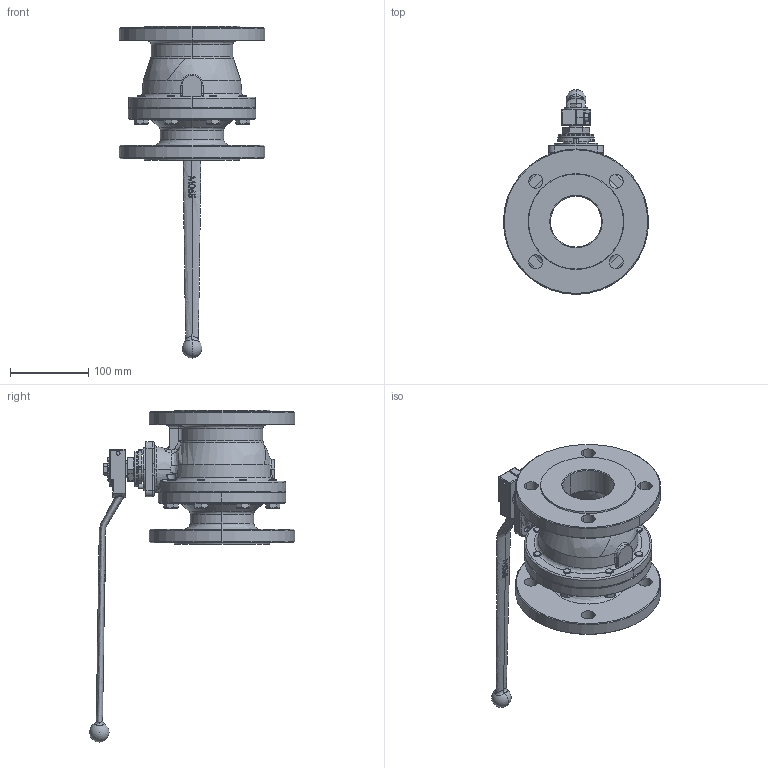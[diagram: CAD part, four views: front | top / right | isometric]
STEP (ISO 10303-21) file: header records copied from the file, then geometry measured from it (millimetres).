
FILE_DESCRIPTION (( 'STEP AP214' ), '1' );
FILE_NAME ('FIG 516 - DN65 con maneta.STEP', '2016-10-03T17:37:40', ( '' ), ( '' ), 'SwSTEP 2.0', 'SolidWorks 2016', '' );
FILE_SCHEMA (( 'AUTOMOTIVE_DESIGN' ));
Length unit declared in the file: millimetre
Products named in the file (17): M065CHST; DIN 6325 - Ø6x18; ISO 4017 - M10 x 30-N_ISO 4017 - M10 x 30-N; 5165-10-1; 0516065C; DIN 2093 - B45; DIN 912 M6 x 20 --- 20C_DIN 912 M6 x 20 --- 20C; ISO 4017 - M8 x 16-N_ISO 4017 - M8 x 16-N; 0516065L; 5165_17; FIG 516 - DN65 con maneta; 00650930; P65G (32x22x5)_Comprimida; EPI65Q; JT65FV (32x22x2); 5165-07; 5265_46
Assembly tree (26 placements, depth 2):
  FIG 516 - DN65 con maneta
    0516065C
    0516065L
    EPI65Q
    P65G (32x22x5)_Comprimida  x2
    5165-10-1
    JT65FV (32x22x2)
    DIN 2093 - B45  x2
    M065CHST
    5165_17
    ISO 4017 - M8 x 16-N_ISO 4017 - M8 x 16-N
    ISO 4017 - M10 x 30-N_ISO 4017 - M10 x 30-N  x8
    DIN 912 M6 x 20 --- 20C_DIN 912 M6 x 20 --- 20C
    5265_46
    5165-07
    00650930
    DIN 6325 - Ø6x18  x2
Bounding box: 185 x 261.4 x 423 mm (x, y, z)
Volume: 1748255.8 mm3; surface area: 347186.2 mm2
Topology: 26 solids, 26 shells, 977 faces, 2376 edges, 1432 vertices
Faces by surface type: plane 297, cylinder 275, cone 187, bspline 156, torus 38, sphere 24
Entity records: 48338 total; most frequent: CARTESIAN_POINT 30730, ORIENTED_EDGE 3738, DIRECTION 3109, EDGE_CURVE 1869, AXIS2_PLACEMENT_3D 1257, VERTEX_POINT 1167, EDGE_LOOP 852, FACE_OUTER_BOUND 752
